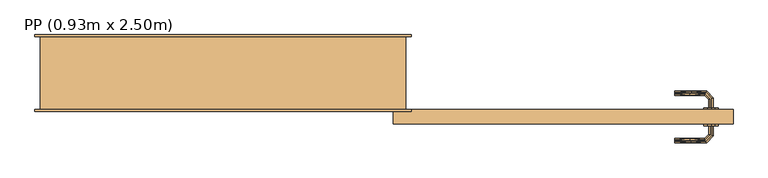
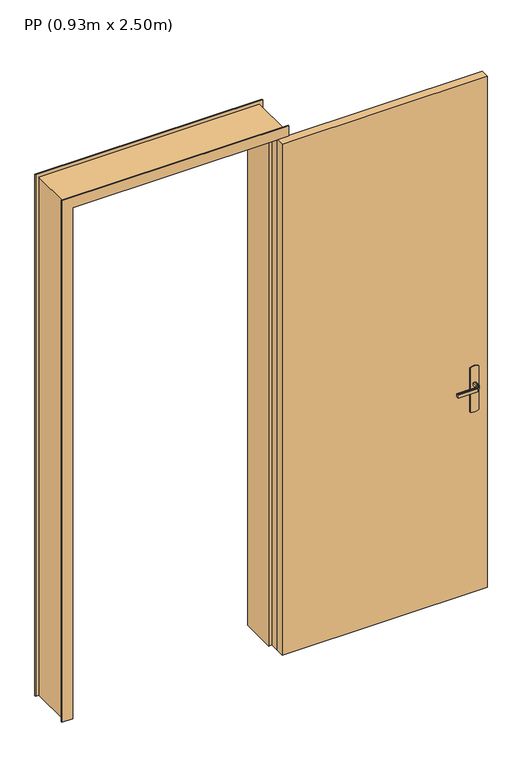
"""IFC4 building model written with IfcOpenShell, lengths in millimetres: door geometry, PP (0.93m x 2.50m)."""

from ifc_helpers import new_model, si_unit, frame, origin, origin_with_axes, place, context, project, spatial, polyline, outline, extrude, faceted_brep, source, transform, mapped, element, save


def pp_0_93m_x_2_50m_220e7a18(model_context):
    return source(origin(), model_context, "Body", "SolidModel", [
        faceted_brep([(1837.0252987, -45.0, 1007.7804408), (1841.0, -45.0, 1007.0), (1841.0, -45.0, 993.0), (1837.0252987, -45.0, 992.2195592), (1832.9747013, -45.0, 992.2195592), (1829.0, -45.0, 993.0), (1829.0, -45.0, 1007.0), (1832.9747013, -45.0, 1007.7804408), (1829.0, -67.4852045, 993.0), (1829.0, -67.4852045, 1007.0), (1832.9747013, -69.1315797, 1007.7804408), (1819.1610938, -82.9451872, 1007.7804408), (1820.8389062, -86.9957845, 1007.7804408), (1837.0252987, -70.8093921, 1007.7804408), (1841.0, -72.4557673, 1007.0), (1841.0, -72.4557673, 993.0), (1837.0252987, -70.8093921, 992.2195592), (1820.8389062, -86.9957845, 992.2195592), (1819.1610938, -82.9451872, 992.2195592), (1832.9747013, -69.1315797, 992.2195592), (1817.5147186, -78.9704859, 993.0), (1817.5147186, -78.9704859, 1007.0), (1822.4852814, -90.9704859, 1007.0), (1822.4852814, -90.9704859, 993.0), (1734.9542163, -78.9704859, 993.0), (1734.9542163, -82.9451872, 992.2195592), (1734.9542163, -86.9957845, 992.2195592), (1734.9542163, -90.9704859, 993.0), (1734.9542163, -90.9704859, 1007.0), (1734.9542163, -86.9957845, 1007.7804408), (1734.9542163, -82.9451872, 1007.7804408), (1734.9542163, -78.9704859, 1007.0), (1776.2344794, -78.9704859, 993.0), (1776.2344675, -78.9704859, 1007.0), (1777.0576551, -84.9704859, 1007.8786868), (1782.5547942, -90.9704859, 1007.0), (1782.5547957, -90.9704859, 993.0), (1777.0576549, -84.9704858, 992.1213132)], [[[0, 1, 2, 3, 4, 5, 6, 7]], [[6, 5, 8, 9]], [[9, 10, 7, 6]], [[10, 11, 12, 13, 0, 7]], [[13, 14, 1, 0]], [[2, 1, 14, 15]], [[15, 16, 3, 2]], [[16, 17, 18, 19, 4, 3]], [[19, 8, 5, 4]], [[9, 8, 20, 21]], [[21, 11, 10, 9]], [[12, 22, 14, 13]], [[15, 14, 22, 23]], [[23, 17, 16, 15]], [[18, 20, 8, 19]], [[24, 25, 26, 27, 28, 29, 30, 31]], [[21, 20, 32, 24, 31, 33]], [[33, 30, 34]], [[35, 34, 29]], [[21, 33, 11]], [[33, 31, 30]], [[28, 35, 29]], [[22, 12, 35]], [[35, 12, 34]], [[12, 11, 34]], [[11, 33, 34]], [[29, 34, 30]], [[22, 35, 28, 27, 36, 23]], [[36, 26, 37]], [[27, 26, 36]], [[17, 23, 36]], [[37, 32, 18]], [[20, 18, 32]], [[32, 25, 24]], [[26, 25, 37]], [[25, 32, 37]], [[17, 36, 37]], [[17, 37, 18]]]),
        extrude(outline(polyline([(1895.0, -40.0), (965.0, -40.0), (965.0, 0.0), (1895.0, 0.0), (1895.0, -40.0)])), origin_with_axes(), (0.0, 0.0, 1.0), 2450.0),
        extrude(outline(polyline([(1083.9960169, 1824.6472382), (1080.0, 1815.0), (870.0, 1815.0), (866.0039831, 1824.6472382), (864.6410162, 1835.0), (866.0039831, 1845.3527618), (870.0, 1855.0), (1080.0, 1855.0), (1083.9960169, 1845.3527618), (1085.3589838, 1835.0), (1083.9960169, 1824.6472382)])), frame((0.0, -45.0, 0.0), z_axis=(0.0, 1.0, 0.0), x_axis=(0.0, 0.0, 1.0)), (0.0, 0.0, 1.0), 5.0),
        faceted_brep([(0.0, 200.0, 0.0), (-15.0, 200.0, 0.0), (-15.0, 205.0, 0.0), (50.0, 205.0, 0.0), (50.0, 40.0, 0.0), (35.0, 40.0, 0.0), (35.0, -5.0, 0.0), (-15.0, -5.0, 0.0), (-15.0, 0.0, 0.0), (0.0, 0.0, 0.0), (0.0, 200.0, 2485.0), (1000.0, 200.0, 2485.0), (1000.0, 200.0, 0.0), (1015.0, 200.0, 0.0), (1015.0, 200.0, 2500.0), (-15.0, 200.0, 2500.0), (-15.0, 205.0, 2500.0), (1015.0, 205.0, 2500.0), (1015.0, 205.0, 0.0), (950.0, 205.0, 0.0), (950.0, 205.0, 2435.0), (50.0, 205.0, 2435.0), (50.0, 40.0, 2435.0), (950.0, 40.0, 2435.0), (950.0, 40.0, 0.0), (965.0, 40.0, 0.0), (965.0, 40.0, 2450.0), (35.0, 40.0, 2450.0), (35.0, -5.0, 2450.0), (965.0, -5.0, 2450.0), (965.0, -5.0, 0.0), (1015.0, -5.0, 0.0), (1015.0, -5.0, 2500.0), (-15.0, -5.0, 2500.0), (-15.0, 0.0, 2500.0), (1015.0, 0.0, 2500.0), (1015.0, 0.0, 0.0), (1000.0, 0.0, 0.0), (1000.0, 0.0, 2485.0), (0.0, 0.0, 2485.0)], [[[0, 1, 2, 3, 4, 5, 6, 7, 8, 9]], [[1, 0, 10, 11, 12, 13, 14, 15]], [[2, 1, 15, 16]], [[3, 2, 16, 17, 18, 19, 20, 21]], [[3, 21, 22, 4]], [[5, 4, 22, 23, 24, 25, 26, 27]], [[5, 27, 28, 6]], [[7, 6, 28, 29, 30, 31, 32, 33]], [[8, 7, 33, 34]], [[9, 8, 34, 35, 36, 37, 38, 39]], [[0, 9, 39, 10]], [[11, 38, 37, 12]], [[12, 37, 36, 31, 30, 25, 24, 19, 18, 13]], [[17, 14, 13, 18]], [[23, 20, 19, 24]], [[29, 26, 25, 30]], [[35, 32, 31, 36]], [[16, 15, 14, 17]], [[22, 21, 20, 23]], [[28, 27, 26, 29]], [[34, 33, 32, 35]], [[10, 39, 38, 11]]]),
        extrude(outline(polyline([(1083.9960169, 1824.6472382), (1080.0, 1815.0), (870.0, 1815.0), (866.0039831, 1824.6472382), (864.6410162, 1835.0), (866.0039831, 1845.3527618), (870.0, 1855.0), (1080.0, 1855.0), (1083.9960169, 1845.3527618), (1085.3589838, 1835.0), (1083.9960169, 1824.6472382)])), frame((0.0, 0.0, 0.0), z_axis=(0.0, 1.0, 0.0), x_axis=(0.0, 0.0, 1.0)), (0.0, 0.0, 1.0), 5.0),
        faceted_brep([(1837.0252987, 5.0, 1007.7804408), (1832.9747013, 5.0, 1007.7804408), (1829.0, 5.0, 1007.0), (1829.0, 5.0, 993.0), (1832.9747013, 5.0, 992.2195592), (1837.0252987, 5.0, 992.2195592), (1841.0, 5.0, 993.0), (1841.0, 5.0, 1007.0), (1841.0, 32.6509507, 1007.0), (1837.0252987, 31.0045755, 1007.7804408), (1820.9764148, 47.0534593, 1007.7804408), (1819.2986025, 43.002862, 1007.7804408), (1832.9747013, 29.3267632, 1007.7804408), (1829.0, 27.680388, 1007.0), (1829.0, 27.680388, 993.0), (1832.9747013, 29.3267632, 992.2195592), (1819.2986025, 43.002862, 992.2195592), (1820.9764148, 47.0534593, 992.2195592), (1837.0252987, 31.0045755, 992.2195592), (1841.0, 32.6509507, 993.0), (1822.62279, 51.0281607, 1007.0), (1817.6522273, 39.0281607, 1007.0), (1817.6522273, 39.0281607, 993.0), (1822.62279, 51.0281607, 993.0), (1734.9813594, 51.0281607, 993.0), (1734.9813594, 47.0534593, 992.2195592), (1734.9813594, 43.002862, 992.2195592), (1734.9813594, 39.0281607, 993.0), (1734.9813594, 39.0281607, 1007.0), (1734.9813594, 43.002862, 1007.7804408), (1734.9813594, 47.0534593, 1007.7804408), (1734.9813594, 51.0281607, 1007.0), (1782.6923028, 51.0281607, 1007.0), (1777.1399809, 45.0281607, 1007.8786868), (1776.3167933, 39.0281607, 1007.0), (1776.3167933, 39.0281607, 993.0), (1777.1399811, 45.0281608, 992.1213132), (1782.6922998, 51.0281607, 993.0)], [[[0, 1, 2, 3, 4, 5, 6, 7]], [[8, 9, 0, 7]], [[9, 10, 11, 12, 1, 0]], [[12, 13, 2, 1]], [[3, 2, 13, 14]], [[14, 15, 4, 3]], [[15, 16, 17, 18, 5, 4]], [[18, 19, 6, 5]], [[7, 6, 19, 8]], [[20, 10, 9, 8]], [[11, 21, 13, 12]], [[14, 13, 21, 22]], [[22, 16, 15, 14]], [[17, 23, 19, 18]], [[8, 19, 23, 20]], [[24, 25, 26, 27, 28, 29, 30, 31]], [[32, 30, 33]], [[31, 30, 32]], [[10, 20, 32]], [[33, 34, 11]], [[21, 11, 34]], [[34, 29, 28]], [[30, 29, 33]], [[29, 34, 33]], [[10, 32, 33]], [[10, 33, 11]], [[22, 21, 34, 28, 27, 35]], [[35, 26, 36]], [[37, 36, 25]], [[22, 35, 16]], [[35, 27, 26]], [[24, 37, 25]], [[23, 17, 37]], [[37, 17, 36]], [[17, 16, 36]], [[16, 35, 36]], [[25, 36, 26]], [[20, 23, 37, 24, 31, 32]]]),
    ])


if __name__ == "__main__":
    model = new_model("IFC4")
    model_context = context("Model", 3, world=origin())
    ifc_project = project(units=[si_unit("LENGTHUNIT", "METRE", prefix="MILLI")], contexts=[model_context])
    site = spatial("IfcSite", under=ifc_project)
    building = spatial("IfcBuilding", under=site)
    placement = place(None, origin())
    pp_0_93m_x_2_50m_shape = pp_0_93m_x_2_50m_220e7a18(model_context)
    element("IfcDoor", 1, ObjectType="PP (0.93m x 2.50m)", at=placement, inside=building, context=model_context, shape_type="MappedRepresentation", body=[
        mapped(pp_0_93m_x_2_50m_shape, transform((0.0, 0.0, 0.0), x_axis=(1.0, 0.0, 0.0), y_axis=(0.0, 1.0, 0.0), z_axis=(0.0, 0.0, 1.0))),
    ])
    save(model, "model.ifc")
